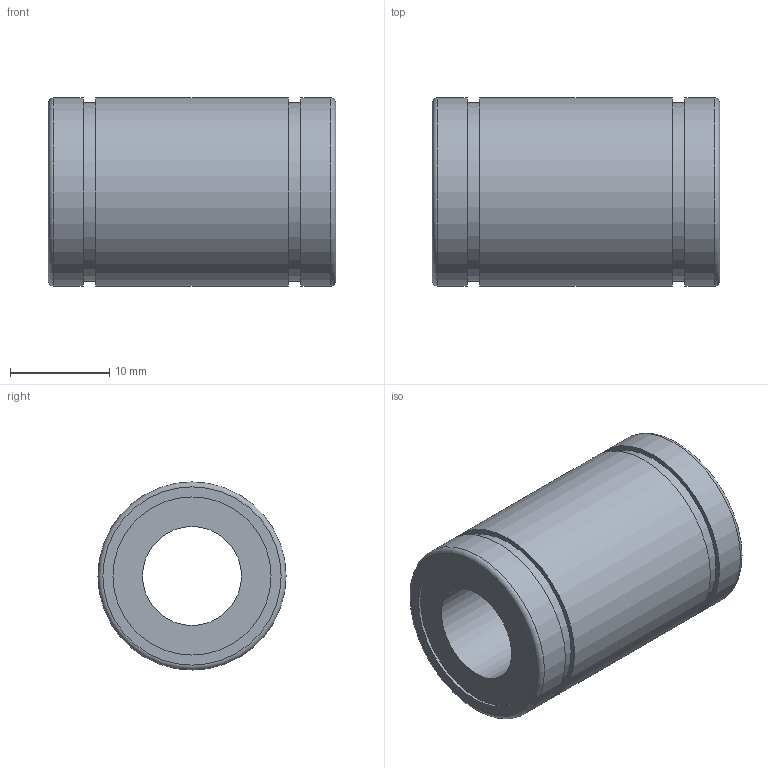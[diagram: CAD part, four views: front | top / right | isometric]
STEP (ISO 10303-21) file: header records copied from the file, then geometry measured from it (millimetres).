
FILE_DESCRIPTION(/* description */ ('STEP AP214'),/* implementation_level */ '2;1');
FILE_NAME(/* name */ '\\JOINapp01\Profiles\martins\Desktop\rolamento\LM10UU.step',/* time_stamp */ '2018-02-15T08:02:25-02:00',/* author */ ('martins'),/* organization */ ('TraceParts S.A.'),/* preprocessor_version */ 'ST-DEVELOPER v16.1',/* originating_system */ 'Autodesk Inventor 2016',/* authorisation */ ' ');
FILE_SCHEMA (('AUTOMOTIVE_DESIGN { 1 0 10303 214 3 1 1 }'));
Length unit declared in the file: millimetre
Products named in the file (2): lm10uu; Assembly6
Assembly tree (1 placements, depth 2):
  Assembly6
    lm10uu
Bounding box: 29 x 19 x 19 mm (x, y, z)
Volume: 5791.5 mm3; surface area: 3154 mm2
Topology: 1 solids, 1 shells, 183 faces, 484 edges, 323 vertices
Faces by surface type: plane 128, bspline 45, cylinder 8, torus 2
Full cylindrical faces by diameter (mm): 10 x1, 15.96 x2, 18 x2, 19 x3
Entity records: 6014 total; most frequent: CARTESIAN_POINT 1709, ORIENTED_EDGE 942, DIRECTION 681, EDGE_CURVE 471, LINE 363, VECTOR 363, VERTEX_POINT 320, EDGE_LOOP 215
